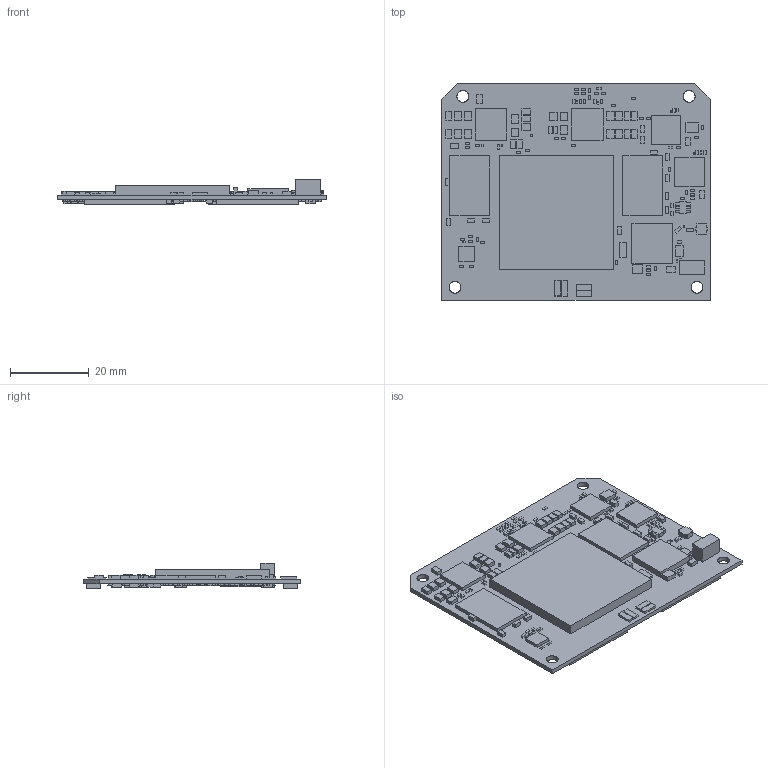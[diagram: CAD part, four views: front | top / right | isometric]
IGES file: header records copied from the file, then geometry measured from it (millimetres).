
Start section: SolidWorks IGES file using analytic representation for surfaces
Global section: file name: C:\Users\Lucky\Downloads\Layout\SPEAR-MX8_Rev1.3.IGS; native system: SolidWorks 2020; preprocessor: SolidWorks 2020; author: Lucky; date: 211122.090734; units: millimetre
Bounding box: 68 x 55 x 6.47 mm (x, y, z)
Surface area: 14718.6 mm2 (no closed solid volume)
Topology: 0 solids, 0 shells, 2922 faces, 12100 edges, 12100 vertices
Faces by surface type: bspline 2912, revolution 10
